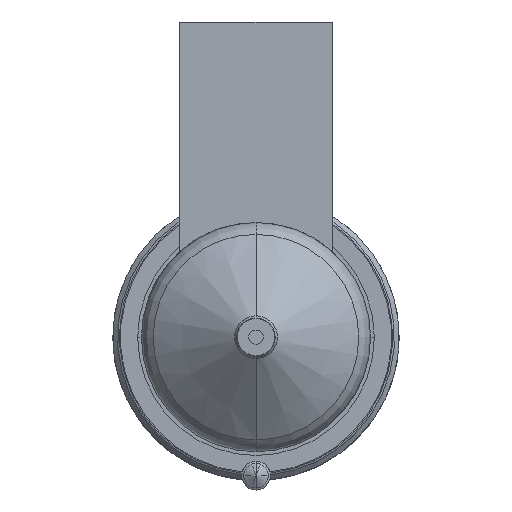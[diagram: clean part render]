
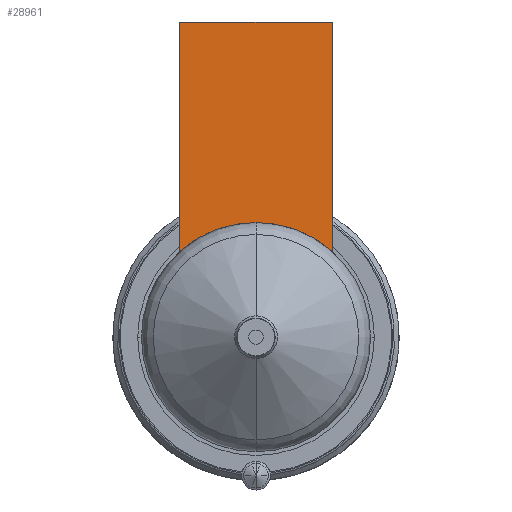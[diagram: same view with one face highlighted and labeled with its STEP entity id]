
A CAD part, front view. The second image highlights one B-rep face of the part: STEP entity #28961.
In plain terms, the highlighted planar face has unit normal (0, -1, 0).
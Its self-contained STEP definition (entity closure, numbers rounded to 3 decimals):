
#28271=DIRECTION('',(0.,0.,-1.));
#28272=VECTOR('',#28271,24.056);
#28273=CARTESIAN_POINT('',(-8.,-56.,33.));
#28274=LINE('',#28273,#28272);
#28311=DIRECTION('',(1.,0.,0.));
#28312=VECTOR('',#28311,16.);
#28313=CARTESIAN_POINT('',(-8.,-56.,33.));
#28314=LINE('',#28313,#28312);
#28318=CARTESIAN_POINT('',(0.,-56.,0.));
#28319=DIRECTION('',(0.,-1.,0.));
#28320=DIRECTION('',(0.667,0.,0.745));
#28321=AXIS2_PLACEMENT_3D('',#28318,#28319,#28320);
#28326=CARTESIAN_POINT('',(0.,-56.,0.));
#28327=DIRECTION('',(0.,-1.,0.));
#28328=DIRECTION('',(0.,0.,1.));
#28329=AXIS2_PLACEMENT_3D('',#28326,#28327,#28328);
#28362=DIRECTION('',(0.,0.,-1.));
#28363=VECTOR('',#28362,24.056);
#28364=CARTESIAN_POINT('',(8.,-56.,33.));
#28365=LINE('',#28364,#28363);
#28825=CARTESIAN_POINT('',(-8.,-56.,33.));
#28826=VERTEX_POINT('',#28825);
#28831=CARTESIAN_POINT('',(8.,-56.,33.));
#28832=VERTEX_POINT('',#28831);
#28835=CARTESIAN_POINT('',(-8.,-56.,8.944));
#28836=VERTEX_POINT('',#28835);
#28839=CARTESIAN_POINT('',(8.,-56.,8.944));
#28840=VERTEX_POINT('',#28839);
#28880=CARTESIAN_POINT('',(0.,-56.,12.));
#28881=VERTEX_POINT('',#28880);
#28946=CARTESIAN_POINT('',(-8.,-56.,33.));
#28947=DIRECTION('',(0.,-1.,0.));
#28948=DIRECTION('',(0.,0.,-1.));
#28949=AXIS2_PLACEMENT_3D('',#28946,#28947,#28948);
#28950=PLANE('',#28949);
#28951=ORIENTED_EDGE('',*,*,#28894,.F.);
#28953=ORIENTED_EDGE('',*,*,#28952,.T.);
#28955=ORIENTED_EDGE('',*,*,#28954,.T.);
#28957=ORIENTED_EDGE('',*,*,#28956,.T.);
#28958=ORIENTED_EDGE('',*,*,#28926,.T.);
#28959=EDGE_LOOP('',(#28951,#28953,#28955,#28957,#28958));
#28960=FACE_OUTER_BOUND('',#28959,.F.);
#28961=ADVANCED_FACE('',(#28960),#28950,.T.);
#28322=CIRCLE('',#28321,12.);
#28330=CIRCLE('',#28329,12.);
#28894=EDGE_CURVE('',#28826,#28836,#28274,.T.);
#28926=EDGE_CURVE('',#28881,#28836,#28330,.T.);
#28952=EDGE_CURVE('',#28826,#28832,#28314,.T.);
#28954=EDGE_CURVE('',#28832,#28840,#28365,.T.);
#28956=EDGE_CURVE('',#28840,#28881,#28322,.T.);
